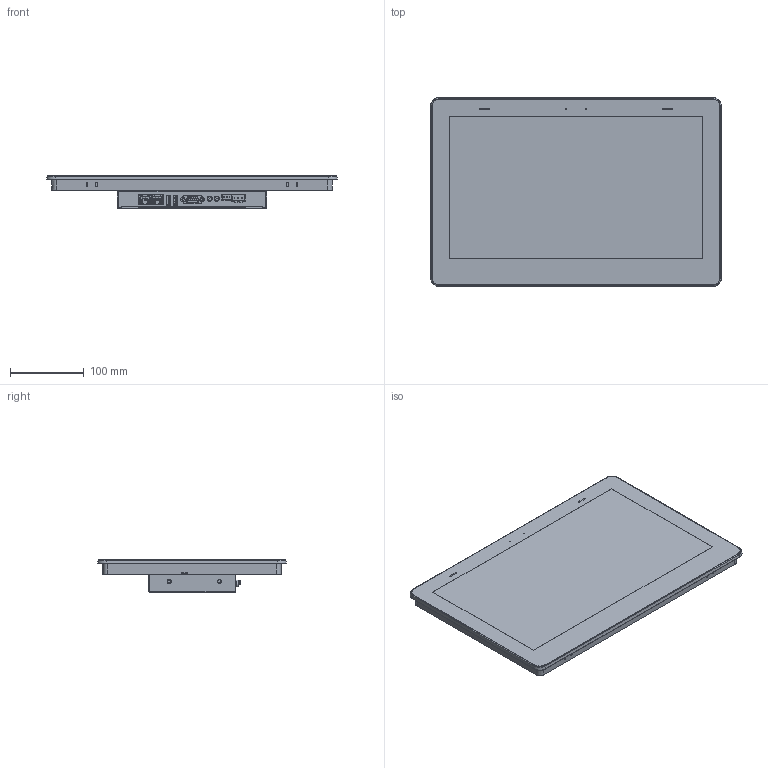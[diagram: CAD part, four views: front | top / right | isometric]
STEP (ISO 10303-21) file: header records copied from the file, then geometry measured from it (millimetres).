
FILE_DESCRIPTION (( 'STEP AP203' ), '1' );
FILE_NAME ('HMI-A15_A15Pro炵蹈 籵蚚3D.STEP', '2025-05-08T02:27:17', ( 'h''w''s''j''s' ), ( '' ), 'SwSTEP 2.0', 'SolidWorks 2020', '' );
FILE_SCHEMA (( 'CONFIG_CONTROL_DESIGN' ));
Products named in the file (1): HMI-A15_A15Pro炵蹈 籵蚚3D
Bounding box: 393.36 x 255.36 x 44.54 mm (x, y, z)
Volume: 2317234.6 mm3; surface area: 384963.1 mm2
Topology: 1 solids, 17 shells, 4693 faces, 13007 edges, 8357 vertices
Faces by surface type: plane 3385, cylinder 993, cone 134, sphere 77, bspline 66, torus 38
Entity records: 163095 total; most frequent: CARTESIAN_POINT 42194, ORIENTED_EDGE 25836, DIRECTION 24102, EDGE_CURVE 12918, LINE 10186, VECTOR 10186, VERTEX_POINT 8353, AXIS2_PLACEMENT_3D 6958
